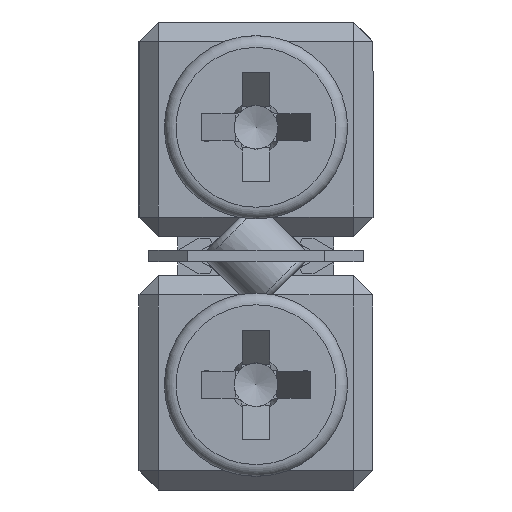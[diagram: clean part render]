
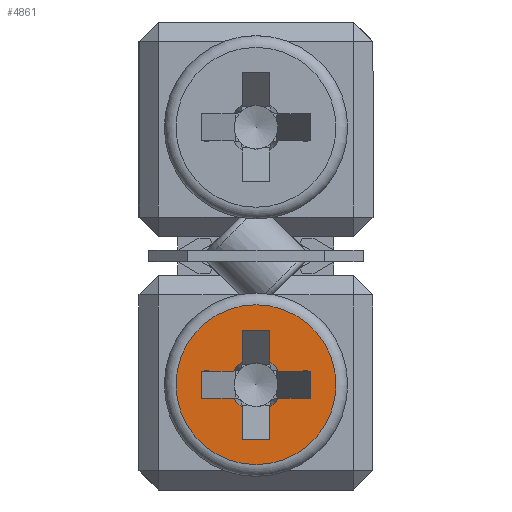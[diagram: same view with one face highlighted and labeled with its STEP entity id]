
A CAD part, left-side view. The second image highlights one B-rep face of the part: STEP entity #4861.
In plain terms, the highlighted planar face has unit normal (-1, 0, 0).
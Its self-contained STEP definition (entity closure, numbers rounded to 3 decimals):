
#122 = ORIENTED_EDGE ( 'NONE', *, *, #3326, .T. ) ;
#212 = ORIENTED_EDGE ( 'NONE', *, *, #13151, .F. ) ;
#245 = CARTESIAN_POINT ( 'NONE',  ( -46.5, 0., 2.7 ) ) ;
#345 = ORIENTED_EDGE ( 'NONE', *, *, #8995, .F. ) ;
#374 = EDGE_LOOP ( 'NONE', ( #11332, #814, #4723, #8181, #1151, #13212, #212, #12272, #12786, #10059, #2049, #122, #345, #2852, #4258, #1096 ) ) ;
#390 = CARTESIAN_POINT ( 'NONE',  ( -46.5, -1.4, 2.35 ) ) ;
#569 = LINE ( 'NONE', #6800, #12177 ) ;
#679 = VECTOR ( 'NONE', #719, 1000. ) ;
#715 = VERTEX_POINT ( 'NONE', #10454 ) ;
#719 = DIRECTION ( 'NONE',  ( 0., 0., -1. ) ) ;
#752 = CARTESIAN_POINT ( 'NONE',  ( -46.5, -0.35, 2.119 ) ) ;
#814 = ORIENTED_EDGE ( 'NONE', *, *, #13073, .T. ) ;
#840 = VERTEX_POINT ( 'NONE', #7404 ) ;
#1075 = EDGE_CURVE ( 'NONE', #6592, #8391, #12569, .T. ) ;
#1096 = ORIENTED_EDGE ( 'NONE', *, *, #7127, .T. ) ;
#1127 = DIRECTION ( 'NONE',  ( 0., 1., 0. ) ) ;
#1151 = ORIENTED_EDGE ( 'NONE', *, *, #11187, .F. ) ;
#1219 = VERTEX_POINT ( 'NONE', #2097 ) ;
#1537 = AXIS2_PLACEMENT_3D ( 'NONE', #245, #8754, #4616 ) ;
#1642 = VECTOR ( 'NONE', #6641, 1000. ) ;
#1739 = DIRECTION ( 'NONE',  ( 0., -1., 0. ) ) ;
#1773 = CARTESIAN_POINT ( 'NONE',  ( -46.5, 0.35, 1.3 ) ) ;
#1849 = DIRECTION ( 'NONE',  ( -1., 0., 0. ) ) ;
#1979 = CARTESIAN_POINT ( 'NONE',  ( -46.5, 0.35, 1.3 ) ) ;
#1996 = CARTESIAN_POINT ( 'NONE',  ( -46.5, 0., 2.7 ) ) ;
#2049 = ORIENTED_EDGE ( 'NONE', *, *, #10880, .F. ) ;
#2097 = CARTESIAN_POINT ( 'NONE',  ( -46.5, -0.581, 2.35 ) ) ;
#2282 = CARTESIAN_POINT ( 'NONE',  ( -46.5, -0.35, 4.1 ) ) ;
#2521 = DIRECTION ( 'NONE',  ( 0., 0., -1. ) ) ;
#2534 = VECTOR ( 'NONE', #1739, 1000. ) ;
#2548 = FACE_BOUND ( 'NONE', #374, .T. ) ;
#2642 = DIRECTION ( 'NONE',  ( 0., 0., -1. ) ) ;
#2852 = ORIENTED_EDGE ( 'NONE', *, *, #1075, .T. ) ;
#3091 = CARTESIAN_POINT ( 'NONE',  ( -46.5, 1.4, 3.05 ) ) ;
#3216 = EDGE_CURVE ( 'NONE', #840, #3596, #13038, .T. ) ;
#3326 = EDGE_CURVE ( 'NONE', #715, #7769, #12043, .T. ) ;
#3596 = VERTEX_POINT ( 'NONE', #5630 ) ;
#3681 = VERTEX_POINT ( 'NONE', #7622 ) ;
#4029 = CARTESIAN_POINT ( 'NONE',  ( -46.5, -0.35, 1.3 ) ) ;
#4168 = AXIS2_PLACEMENT_3D ( 'NONE', #1996, #1849, #7420 ) ;
#4258 = ORIENTED_EDGE ( 'NONE', *, *, #7530, .F. ) ;
#4287 = CARTESIAN_POINT ( 'NONE',  ( -46.5, 0.35, 1.3 ) ) ;
#4291 = DIRECTION ( 'NONE',  ( 0., -1., 0. ) ) ;
#4363 = CARTESIAN_POINT ( 'NONE',  ( -46.5, 1.4, 3.05 ) ) ;
#4389 = VECTOR ( 'NONE', #5284, 1000. ) ;
#4452 = VECTOR ( 'NONE', #10283, 1000. ) ;
#4616 = DIRECTION ( 'NONE',  ( 0., 0., 1. ) ) ;
#4723 = ORIENTED_EDGE ( 'NONE', *, *, #10729, .F. ) ;
#4861 = ADVANCED_FACE ( 'NONE', ( #7902, #2548 ), #12308, .F. ) ;
#4969 = VECTOR ( 'NONE', #1127, 1000. ) ;
#5124 = CARTESIAN_POINT ( 'NONE',  ( -46.5, -1.4, 3.05 ) ) ;
#5186 = VECTOR ( 'NONE', #11632, 1000. ) ;
#5226 = DIRECTION ( 'NONE',  ( -1., 0., 0. ) ) ;
#5284 = DIRECTION ( 'NONE',  ( 0., 0., 1. ) ) ;
#5304 = LINE ( 'NONE', #3091, #679 ) ;
#5427 = LINE ( 'NONE', #4363, #5496 ) ;
#5496 = VECTOR ( 'NONE', #4291, 1000. ) ;
#5584 = EDGE_LOOP ( 'NONE', ( #10001 ) ) ;
#5630 = CARTESIAN_POINT ( 'NONE',  ( -46.5, 0.581, 3.05 ) ) ;
#5703 = LINE ( 'NONE', #10029, #4969 ) ;
#6075 = CARTESIAN_POINT ( 'NONE',  ( -46.5, 0., 2.7 ) ) ;
#6095 = CARTESIAN_POINT ( 'NONE',  ( -46.5, -0.581, 3.05 ) ) ;
#6097 = LINE ( 'NONE', #390, #12688 ) ;
#6358 = LINE ( 'NONE', #4287, #9274 ) ;
#6433 = AXIS2_PLACEMENT_3D ( 'NONE', #8340, #9334, #11457 ) ;
#6586 = VERTEX_POINT ( 'NONE', #7723 ) ;
#6592 = VERTEX_POINT ( 'NONE', #6095 ) ;
#6641 = DIRECTION ( 'NONE',  ( 0., 0., -1. ) ) ;
#6800 = CARTESIAN_POINT ( 'NONE',  ( -46.5, -1.4, 2.35 ) ) ;
#6930 = CARTESIAN_POINT ( 'NONE',  ( -46.5, 0.35, 4.1 ) ) ;
#7062 = CIRCLE ( 'NONE', #7527, 2.05 ) ;
#7127 = EDGE_CURVE ( 'NONE', #11027, #1219, #8907, .T. ) ;
#7239 = CIRCLE ( 'NONE', #1537, 0.678 ) ;
#7305 = CARTESIAN_POINT ( 'NONE',  ( -46.5, 0.581, 2.35 ) ) ;
#7404 = CARTESIAN_POINT ( 'NONE',  ( -46.5, 0.35, 3.281 ) ) ;
#7420 = DIRECTION ( 'NONE',  ( 0., 0., 1. ) ) ;
#7497 = DIRECTION ( 'NONE',  ( 0., 0., 1. ) ) ;
#7527 = AXIS2_PLACEMENT_3D ( 'NONE', #8068, #9144, #2642 ) ;
#7530 = EDGE_CURVE ( 'NONE', #11027, #8391, #569, .T. ) ;
#7622 = CARTESIAN_POINT ( 'NONE',  ( -46.5, 0.35, 2.119 ) ) ;
#7723 = CARTESIAN_POINT ( 'NONE',  ( -46.5, 0., 0.65 ) ) ;
#7769 = VERTEX_POINT ( 'NONE', #10977 ) ;
#7902 = FACE_OUTER_BOUND ( 'NONE', #5584, .T. ) ;
#8068 = CARTESIAN_POINT ( 'NONE',  ( -46.5, 0., 2.7 ) ) ;
#8181 = ORIENTED_EDGE ( 'NONE', *, *, #10276, .T. ) ;
#8340 = CARTESIAN_POINT ( 'NONE',  ( -46.5, 0., 2.7 ) ) ;
#8391 = VERTEX_POINT ( 'NONE', #5124 ) ;
#8432 = VERTEX_POINT ( 'NONE', #8751 ) ;
#8738 = VERTEX_POINT ( 'NONE', #7305 ) ;
#8751 = CARTESIAN_POINT ( 'NONE',  ( -46.5, 1.4, 3.05 ) ) ;
#8754 = DIRECTION ( 'NONE',  ( -1., 0., 0. ) ) ;
#8789 = CARTESIAN_POINT ( 'NONE',  ( -46.5, 0.35, 1.3 ) ) ;
#8907 = LINE ( 'NONE', #13497, #4452 ) ;
#8995 = EDGE_CURVE ( 'NONE', #6592, #7769, #11645, .T. ) ;
#9021 = EDGE_CURVE ( 'NONE', #11176, #1219, #12547, .T. ) ;
#9078 = EDGE_CURVE ( 'NONE', #840, #13488, #11526, .T. ) ;
#9118 = DIRECTION ( 'NONE',  ( 0., 0., -1. ) ) ;
#9144 = DIRECTION ( 'NONE',  ( -1., 0., 0. ) ) ;
#9274 = VECTOR ( 'NONE', #9623, 1000. ) ;
#9334 = DIRECTION ( 'NONE',  ( -1., 0., 0. ) ) ;
#9443 = LINE ( 'NONE', #8789, #5186 ) ;
#9517 = CARTESIAN_POINT ( 'NONE',  ( -46.5, 1.4, 2.35 ) ) ;
#9623 = DIRECTION ( 'NONE',  ( 0., -1., 0. ) ) ;
#9777 = VERTEX_POINT ( 'NONE', #4029 ) ;
#10001 = ORIENTED_EDGE ( 'NONE', *, *, #13436, .T. ) ;
#10005 = VECTOR ( 'NONE', #2521, 1000. ) ;
#10029 = CARTESIAN_POINT ( 'NONE',  ( -46.5, -0.35, 4.1 ) ) ;
#10059 = ORIENTED_EDGE ( 'NONE', *, *, #9078, .T. ) ;
#10241 = CARTESIAN_POINT ( 'NONE',  ( -46.5, -1.4, 2.35 ) ) ;
#10273 = VERTEX_POINT ( 'NONE', #9517 ) ;
#10276 = EDGE_CURVE ( 'NONE', #11056, #3681, #9443, .T. ) ;
#10283 = DIRECTION ( 'NONE',  ( 0., 1., 0. ) ) ;
#10454 = CARTESIAN_POINT ( 'NONE',  ( -46.5, -0.35, 4.1 ) ) ;
#10729 = EDGE_CURVE ( 'NONE', #11056, #9777, #6358, .T. ) ;
#10880 = EDGE_CURVE ( 'NONE', #715, #13488, #5703, .T. ) ;
#10977 = CARTESIAN_POINT ( 'NONE',  ( -46.5, -0.35, 3.281 ) ) ;
#11027 = VERTEX_POINT ( 'NONE', #10241 ) ;
#11056 = VERTEX_POINT ( 'NONE', #1979 ) ;
#11130 = DIRECTION ( 'NONE',  ( 0., 0., 1. ) ) ;
#11176 = VERTEX_POINT ( 'NONE', #752 ) ;
#11187 = EDGE_CURVE ( 'NONE', #8738, #3681, #7239, .T. ) ;
#11237 = CARTESIAN_POINT ( 'NONE',  ( -46.5, 2.35, 2.7 ) ) ;
#11303 = DIRECTION ( 'NONE',  ( 1., 0., 0. ) ) ;
#11332 = ORIENTED_EDGE ( 'NONE', *, *, #9021, .F. ) ;
#11428 = AXIS2_PLACEMENT_3D ( 'NONE', #6075, #5226, #7497 ) ;
#11431 = EDGE_CURVE ( 'NONE', #8738, #10273, #6097, .T. ) ;
#11457 = DIRECTION ( 'NONE',  ( 0., 0., 1. ) ) ;
#11496 = CARTESIAN_POINT ( 'NONE',  ( -46.5, 1.4, 3.05 ) ) ;
#11526 = LINE ( 'NONE', #1773, #4389 ) ;
#11632 = DIRECTION ( 'NONE',  ( 0., 0., 1. ) ) ;
#11645 = CIRCLE ( 'NONE', #4168, 0.678 ) ;
#12043 = LINE ( 'NONE', #2282, #1642 ) ;
#12177 = VECTOR ( 'NONE', #11130, 1000. ) ;
#12272 = ORIENTED_EDGE ( 'NONE', *, *, #13753, .T. ) ;
#12285 = LINE ( 'NONE', #13491, #10005 ) ;
#12308 = PLANE ( 'NONE',  #12686 ) ;
#12547 = CIRCLE ( 'NONE', #6433, 0.678 ) ;
#12569 = LINE ( 'NONE', #11496, #2534 ) ;
#12686 = AXIS2_PLACEMENT_3D ( 'NONE', #11237, #11303, #9118 ) ;
#12688 = VECTOR ( 'NONE', #13434, 1000. ) ;
#12786 = ORIENTED_EDGE ( 'NONE', *, *, #3216, .F. ) ;
#13038 = CIRCLE ( 'NONE', #11428, 0.678 ) ;
#13073 = EDGE_CURVE ( 'NONE', #11176, #9777, #12285, .T. ) ;
#13151 = EDGE_CURVE ( 'NONE', #8432, #10273, #5304, .T. ) ;
#13212 = ORIENTED_EDGE ( 'NONE', *, *, #11431, .T. ) ;
#13434 = DIRECTION ( 'NONE',  ( 0., 1., 0. ) ) ;
#13436 = EDGE_CURVE ( 'NONE', #6586, #6586, #7062, .T. ) ;
#13488 = VERTEX_POINT ( 'NONE', #6930 ) ;
#13491 = CARTESIAN_POINT ( 'NONE',  ( -46.5, -0.35, 4.1 ) ) ;
#13497 = CARTESIAN_POINT ( 'NONE',  ( -46.5, -1.4, 2.35 ) ) ;
#13753 = EDGE_CURVE ( 'NONE', #8432, #3596, #5427, .T. ) ;
